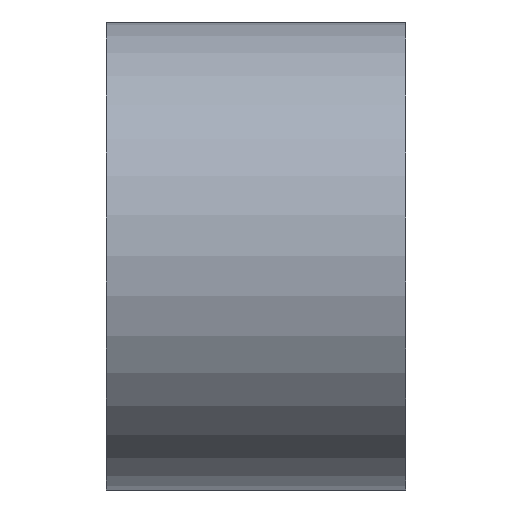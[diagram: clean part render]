
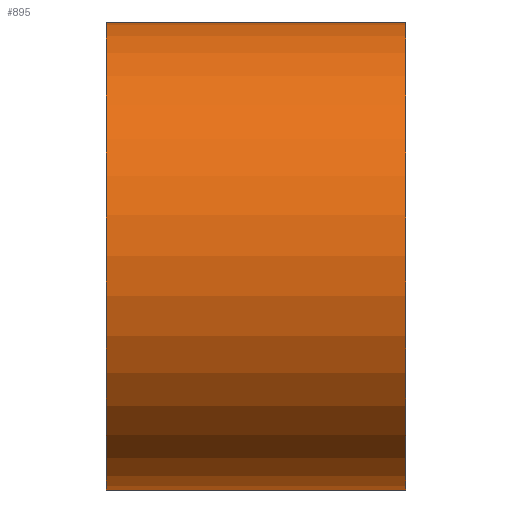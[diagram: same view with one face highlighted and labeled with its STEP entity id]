
A CAD part, top view. The second image highlights one B-rep face of the part: STEP entity #895.
In plain terms, the highlighted cylindrical face has radius 6.25 mm (diameter 12.5 mm), a partial arc.
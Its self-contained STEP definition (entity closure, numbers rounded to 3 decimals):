
#209=CARTESIAN_POINT('Axis2P3D Location',(0.,0.,47.)) ;
#214=CARTESIAN_POINT('Line Origine',(0.,-6.25,47.)) ;
#218=CARTESIAN_POINT('Vertex',(-4.,-6.25,47.)) ;
#220=CARTESIAN_POINT('Vertex',(4.,-6.25,47.)) ;
#227=CARTESIAN_POINT('Vertex',(-4.,6.25,47.)) ;
#230=CARTESIAN_POINT('Line Origine',(0.,6.25,47.)) ;
#234=CARTESIAN_POINT('Vertex',(4.,6.25,47.)) ;
#879=CARTESIAN_POINT('Axis2P3D Location',(-4.,0.,47.)) ;
#884=CARTESIAN_POINT('Axis2P3D Location',(4.,0.,47.)) ;
#210=DIRECTION('Axis2P3D Direction',(1.,0.,0.)) ;
#211=DIRECTION('Axis2P3D XDirection',(0.,1.,0.)) ;
#215=DIRECTION('Vector Direction',(1.,0.,0.)) ;
#231=DIRECTION('Vector Direction',(1.,0.,0.)) ;
#880=DIRECTION('Axis2P3D Direction',(1.,0.,0.)) ;
#885=DIRECTION('Axis2P3D Direction',(1.,0.,0.)) ;
#212=AXIS2_PLACEMENT_3D('Cylinder Axis2P3D',#209,#210,#211) ;
#881=AXIS2_PLACEMENT_3D('Circle Axis2P3D',#879,#880,$) ;
#886=AXIS2_PLACEMENT_3D('Circle Axis2P3D',#884,#885,$) ;
#890=ORIENTED_EDGE('',*,*,#236,.F.) ;
#891=ORIENTED_EDGE('',*,*,#883,.T.) ;
#892=ORIENTED_EDGE('',*,*,#222,.T.) ;
#893=ORIENTED_EDGE('',*,*,#888,.F.) ;
#216=VECTOR('Line Direction',#215,1.) ;
#232=VECTOR('Line Direction',#231,1.) ;
#895=ADVANCED_FACE('\X2\96F64EF651E04F554F53\X0\',(#894),#213,.T.) ;
#882=CIRCLE('generated circle',#881,6.25) ;
#887=CIRCLE('generated circle',#886,6.25) ;
#213=CYLINDRICAL_SURFACE('generated cylinder',#212,6.25) ;
#222=EDGE_CURVE('',#219,#221,#217,.T.) ;
#236=EDGE_CURVE('',#228,#235,#233,.T.) ;
#883=EDGE_CURVE('',#228,#219,#882,.T.) ;
#888=EDGE_CURVE('',#235,#221,#887,.T.) ;
#889=EDGE_LOOP('',(#890,#891,#892,#893)) ;
#894=FACE_OUTER_BOUND('',#889,.T.) ;
#217=LINE('Line',#214,#216) ;
#233=LINE('Line',#230,#232) ;
#219=VERTEX_POINT('',#218) ;
#221=VERTEX_POINT('',#220) ;
#228=VERTEX_POINT('',#227) ;
#235=VERTEX_POINT('',#234) ;
